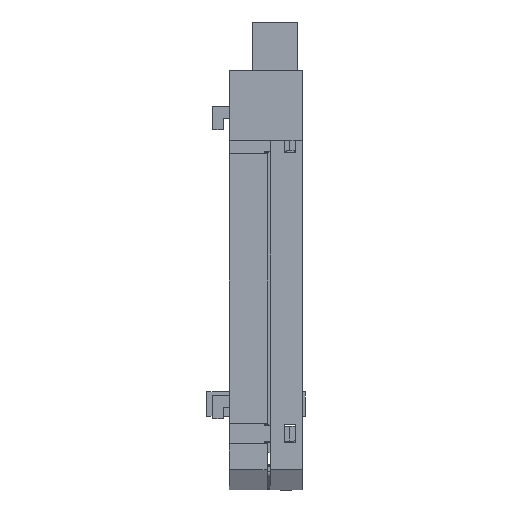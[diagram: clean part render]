
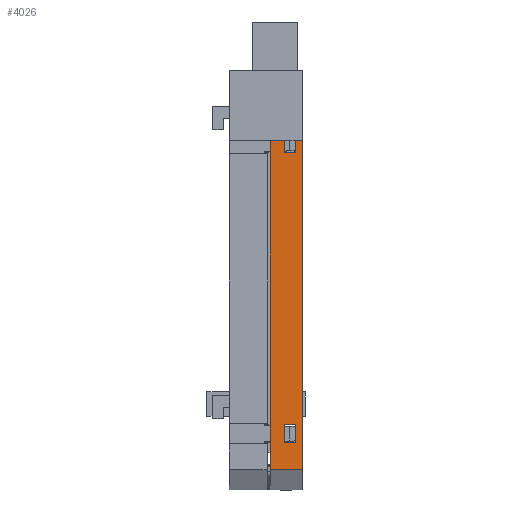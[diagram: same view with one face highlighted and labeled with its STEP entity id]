
A CAD part, front view. The second image highlights one B-rep face of the part: STEP entity #4026.
In plain terms, the highlighted planar face has unit normal (0, -1, 0).
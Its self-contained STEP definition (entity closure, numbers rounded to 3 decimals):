
#197 = LINE ( 'NONE', #22201, #7581 ) ;
#253 = CARTESIAN_POINT ( 'NONE',  ( 2.4, 0., -60.645 ) ) ;
#877 = LINE ( 'NONE', #33205, #16379 ) ;
#1150 = ORIENTED_EDGE ( 'NONE', *, *, #14176, .T. ) ;
#1632 = ORIENTED_EDGE ( 'NONE', *, *, #22960, .T. ) ;
#1731 = LINE ( 'NONE', #21769, #15545 ) ;
#1757 = ORIENTED_EDGE ( 'NONE', *, *, #28293, .F. ) ;
#1886 = DIRECTION ( 'NONE',  ( 0., 1., 0. ) ) ;
#2138 = EDGE_LOOP ( 'NONE', ( #25806, #18614, #22948, #21036 ) ) ;
#2527 = DIRECTION ( 'NONE',  ( -1., 0., 0. ) ) ;
#2831 = DIRECTION ( 'NONE',  ( 0., 0., -1. ) ) ;
#3058 = DIRECTION ( 'NONE',  ( 0., 0., 1. ) ) ;
#3121 = CARTESIAN_POINT ( 'NONE',  ( 2.4, 0., -57.545 ) ) ;
#3666 = LINE ( 'NONE', #6082, #17454 ) ;
#4026 = ADVANCED_FACE ( 'NONE', ( #30912, #16206, #30042 ), #34895, .F. ) ;
#4731 = LINE ( 'NONE', #31698, #25901 ) ;
#4856 = VERTEX_POINT ( 'NONE', #30884 ) ;
#5981 = VERTEX_POINT ( 'NONE', #7980 ) ;
#6026 = EDGE_CURVE ( 'NONE', #4856, #30131, #33773, .T. ) ;
#6082 = CARTESIAN_POINT ( 'NONE',  ( 5.5, 0., 0. ) ) ;
#6126 = EDGE_CURVE ( 'NONE', #11932, #13801, #10558, .T. ) ;
#6756 = VECTOR ( 'NONE', #12799, 1000. ) ;
#7138 = CARTESIAN_POINT ( 'NONE',  ( 5.5, 0., 0. ) ) ;
#7581 = VECTOR ( 'NONE', #33275, 1000. ) ;
#7980 = CARTESIAN_POINT ( 'NONE',  ( 5.5, 0., -65.25 ) ) ;
#8142 = ORIENTED_EDGE ( 'NONE', *, *, #31275, .T. ) ;
#8847 = DIRECTION ( 'NONE',  ( 0., 0., -1. ) ) ;
#9093 = ORIENTED_EDGE ( 'NONE', *, *, #21707, .T. ) ;
#9468 = VERTEX_POINT ( 'NONE', #11729 ) ;
#10558 = LINE ( 'NONE', #3121, #25212 ) ;
#10778 = VERTEX_POINT ( 'NONE', #12480 ) ;
#10818 = EDGE_CURVE ( 'NONE', #9468, #12439, #197, .T. ) ;
#11122 = CARTESIAN_POINT ( 'NONE',  ( 2.4, 0., -57.545 ) ) ;
#11729 = CARTESIAN_POINT ( 'NONE',  ( 4.4, 0., -10.945 ) ) ;
#11932 = VERTEX_POINT ( 'NONE', #11122 ) ;
#12439 = VERTEX_POINT ( 'NONE', #14117 ) ;
#12480 = CARTESIAN_POINT ( 'NONE',  ( 0., 0., -65.25 ) ) ;
#12799 = DIRECTION ( 'NONE',  ( 0., 0., -1. ) ) ;
#13775 = LINE ( 'NONE', #253, #34884 ) ;
#13796 = DIRECTION ( 'NONE',  ( 0., 0., 1. ) ) ;
#13801 = VERTEX_POINT ( 'NONE', #24466 ) ;
#14117 = CARTESIAN_POINT ( 'NONE',  ( 2.4, 0., -10.945 ) ) ;
#14176 = EDGE_CURVE ( 'NONE', #33045, #15620, #4731, .T. ) ;
#14276 = CARTESIAN_POINT ( 'NONE',  ( 0., 0., 0. ) ) ;
#15291 = EDGE_CURVE ( 'NONE', #13801, #4856, #27879, .T. ) ;
#15393 = DIRECTION ( 'NONE',  ( 1., 0., 0. ) ) ;
#15545 = VECTOR ( 'NONE', #2831, 1000. ) ;
#15620 = VERTEX_POINT ( 'NONE', #14276 ) ;
#15663 = VECTOR ( 'NONE', #25576, 1000. ) ;
#16206 = FACE_BOUND ( 'NONE', #2138, .T. ) ;
#16379 = VECTOR ( 'NONE', #13796, 1000. ) ;
#16491 = LINE ( 'NONE', #22827, #15663 ) ;
#16763 = CARTESIAN_POINT ( 'NONE',  ( 4.4, 0., -7.845 ) ) ;
#17454 = VECTOR ( 'NONE', #8847, 1000. ) ;
#17585 = AXIS2_PLACEMENT_3D ( 'NONE', #32159, #1886, #21187 ) ;
#18328 = VERTEX_POINT ( 'NONE', #33428 ) ;
#18614 = ORIENTED_EDGE ( 'NONE', *, *, #25195, .T. ) ;
#19931 = CARTESIAN_POINT ( 'NONE',  ( 2.4, 0., -60.645 ) ) ;
#19971 = VECTOR ( 'NONE', #2527, 1000. ) ;
#20929 = CARTESIAN_POINT ( 'NONE',  ( 2.4, 0., -7.845 ) ) ;
#21036 = ORIENTED_EDGE ( 'NONE', *, *, #15291, .T. ) ;
#21187 = DIRECTION ( 'NONE',  ( 0., 0., 1. ) ) ;
#21665 = EDGE_CURVE ( 'NONE', #23633, #9468, #1731, .T. ) ;
#21707 = EDGE_CURVE ( 'NONE', #12439, #18328, #877, .T. ) ;
#21769 = CARTESIAN_POINT ( 'NONE',  ( 4.4, 0., -10.945 ) ) ;
#21862 = LINE ( 'NONE', #20929, #29204 ) ;
#22201 = CARTESIAN_POINT ( 'NONE',  ( 2.4, 0., -10.945 ) ) ;
#22827 = CARTESIAN_POINT ( 'NONE',  ( 0., 0., 0. ) ) ;
#22948 = ORIENTED_EDGE ( 'NONE', *, *, #6126, .T. ) ;
#22960 = EDGE_CURVE ( 'NONE', #18328, #23633, #21862, .T. ) ;
#23025 = VECTOR ( 'NONE', #27427, 1000. ) ;
#23230 = EDGE_LOOP ( 'NONE', ( #9093, #1632, #23689, #30216 ) ) ;
#23633 = VERTEX_POINT ( 'NONE', #16763 ) ;
#23689 = ORIENTED_EDGE ( 'NONE', *, *, #21665, .T. ) ;
#23701 = EDGE_LOOP ( 'NONE', ( #8142, #1757, #34499, #1150 ) ) ;
#23746 = EDGE_CURVE ( 'NONE', #33045, #5981, #3666, .T. ) ;
#24466 = CARTESIAN_POINT ( 'NONE',  ( 4.4, 0., -57.545 ) ) ;
#25167 = DIRECTION ( 'NONE',  ( 1., 0., 0. ) ) ;
#25195 = EDGE_CURVE ( 'NONE', #30131, #11932, #13775, .T. ) ;
#25212 = VECTOR ( 'NONE', #25167, 1000. ) ;
#25576 = DIRECTION ( 'NONE',  ( 0., 0., -1. ) ) ;
#25806 = ORIENTED_EDGE ( 'NONE', *, *, #6026, .T. ) ;
#25901 = VECTOR ( 'NONE', #29051, 1000. ) ;
#27427 = DIRECTION ( 'NONE',  ( -1., 0., 0. ) ) ;
#27879 = LINE ( 'NONE', #29359, #6756 ) ;
#27946 = CARTESIAN_POINT ( 'NONE',  ( 5.5, 0., -65.25 ) ) ;
#28293 = EDGE_CURVE ( 'NONE', #5981, #10778, #31198, .T. ) ;
#29051 = DIRECTION ( 'NONE',  ( -1., 0., 0. ) ) ;
#29204 = VECTOR ( 'NONE', #15393, 1000. ) ;
#29359 = CARTESIAN_POINT ( 'NONE',  ( 4.4, 0., -60.645 ) ) ;
#30042 = FACE_OUTER_BOUND ( 'NONE', #23701, .T. ) ;
#30131 = VERTEX_POINT ( 'NONE', #19931 ) ;
#30216 = ORIENTED_EDGE ( 'NONE', *, *, #10818, .T. ) ;
#30884 = CARTESIAN_POINT ( 'NONE',  ( 4.4, 0., -60.645 ) ) ;
#30912 = FACE_BOUND ( 'NONE', #23230, .T. ) ;
#31198 = LINE ( 'NONE', #27946, #23025 ) ;
#31275 = EDGE_CURVE ( 'NONE', #15620, #10778, #16491, .T. ) ;
#31698 = CARTESIAN_POINT ( 'NONE',  ( 5.5, 0., 0. ) ) ;
#32159 = CARTESIAN_POINT ( 'NONE',  ( 5.5, 0., 0. ) ) ;
#32647 = CARTESIAN_POINT ( 'NONE',  ( 2.4, 0., -60.645 ) ) ;
#33045 = VERTEX_POINT ( 'NONE', #7138 ) ;
#33205 = CARTESIAN_POINT ( 'NONE',  ( 2.4, 0., -10.945 ) ) ;
#33275 = DIRECTION ( 'NONE',  ( -1., 0., 0. ) ) ;
#33428 = CARTESIAN_POINT ( 'NONE',  ( 2.4, 0., -7.845 ) ) ;
#33773 = LINE ( 'NONE', #32647, #19971 ) ;
#34499 = ORIENTED_EDGE ( 'NONE', *, *, #23746, .F. ) ;
#34884 = VECTOR ( 'NONE', #3058, 1000. ) ;
#34895 = PLANE ( 'NONE',  #17585 ) ;
